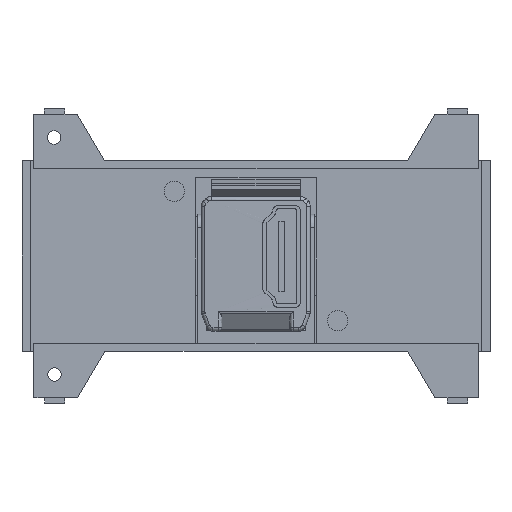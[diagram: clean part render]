
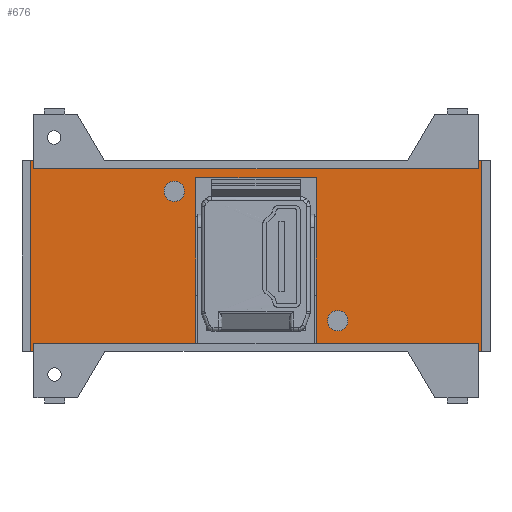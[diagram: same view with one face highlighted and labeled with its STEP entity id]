
A CAD part, top view. The second image highlights one B-rep face of the part: STEP entity #676.
In plain terms, the highlighted planar face has unit normal (0, 0, 1).
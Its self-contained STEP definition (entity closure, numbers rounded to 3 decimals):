
#249 = VERTEX_POINT('',#250);
#250 = CARTESIAN_POINT('',(13.,-9.5,1.2));
#256 = EDGE_CURVE('',#249,#249,#257,.T.);
#257 = CIRCLE('',#258,1.);
#258 = AXIS2_PLACEMENT_3D('',#259,#260,#261);
#259 = CARTESIAN_POINT('',(12.,-9.5,1.2));
#260 = DIRECTION('',(0.,0.,-1.));
#261 = DIRECTION('',(1.,0.,0.));
#274 = VERTEX_POINT('',#275);
#275 = CARTESIAN_POINT('',(-11.,9.5,1.2));
#281 = EDGE_CURVE('',#274,#274,#282,.T.);
#282 = CIRCLE('',#283,1.);
#283 = AXIS2_PLACEMENT_3D('',#284,#285,#286);
#284 = CARTESIAN_POINT('',(-12.,9.5,1.2));
#285 = DIRECTION('',(0.,0.,-1.));
#286 = DIRECTION('',(1.,0.,0.));
#299 = VERTEX_POINT('',#300);
#300 = CARTESIAN_POINT('',(8.83,11.5,1.2));
#306 = EDGE_CURVE('',#307,#299,#309,.T.);
#307 = VERTEX_POINT('',#308);
#308 = CARTESIAN_POINT('',(8.83,-12.8,1.2));
#309 = LINE('',#310,#311);
#310 = CARTESIAN_POINT('',(8.83,5.75,1.2));
#311 = VECTOR('',#312,1.);
#312 = DIRECTION('',(0.,1.,0.));
#330 = VERTEX_POINT('',#331);
#331 = CARTESIAN_POINT('',(-8.82,11.5,1.2));
#337 = EDGE_CURVE('',#299,#330,#338,.T.);
#338 = LINE('',#339,#340);
#339 = CARTESIAN_POINT('',(-4.41,11.5,1.2));
#340 = VECTOR('',#341,1.);
#341 = DIRECTION('',(-1.,0.,0.));
#354 = VERTEX_POINT('',#355);
#355 = CARTESIAN_POINT('',(-8.82,-12.8,1.2));
#361 = EDGE_CURVE('',#330,#354,#362,.T.);
#362 = LINE('',#363,#364);
#363 = CARTESIAN_POINT('',(-8.82,-6.4,1.2));
#364 = VECTOR('',#365,1.);
#365 = DIRECTION('',(0.,-1.,0.));
#426 = VERTEX_POINT('',#427);
#427 = CARTESIAN_POINT('',(-33.15,14.,1.2));
#433 = EDGE_CURVE('',#434,#426,#436,.T.);
#434 = VERTEX_POINT('',#435);
#435 = CARTESIAN_POINT('',(-32.65,14.,1.2));
#436 = LINE('',#437,#438);
#437 = CARTESIAN_POINT('',(34.35,14.,1.2));
#438 = VECTOR('',#439,1.);
#439 = DIRECTION('',(-1.,0.,0.));
#490 = VERTEX_POINT('',#491);
#491 = CARTESIAN_POINT('',(32.65,14.,1.2));
#497 = EDGE_CURVE('',#498,#490,#500,.T.);
#498 = VERTEX_POINT('',#499);
#499 = CARTESIAN_POINT('',(33.15,14.,1.2));
#500 = LINE('',#501,#502);
#501 = CARTESIAN_POINT('',(34.35,14.,1.2));
#502 = VECTOR('',#503,1.);
#503 = DIRECTION('',(-1.,0.,0.));
#546 = VERTEX_POINT('',#547);
#547 = CARTESIAN_POINT('',(33.15,-14.,1.2));
#553 = EDGE_CURVE('',#554,#546,#556,.T.);
#554 = VERTEX_POINT('',#555);
#555 = CARTESIAN_POINT('',(32.65,-14.,1.2));
#556 = LINE('',#557,#558);
#557 = CARTESIAN_POINT('',(-34.35,-14.,1.2));
#558 = VECTOR('',#559,1.);
#559 = DIRECTION('',(1.,0.,0.));
#626 = VERTEX_POINT('',#627);
#627 = CARTESIAN_POINT('',(-32.65,-14.,1.2));
#633 = EDGE_CURVE('',#634,#626,#636,.T.);
#634 = VERTEX_POINT('',#635);
#635 = CARTESIAN_POINT('',(-33.15,-14.,1.2));
#636 = LINE('',#637,#638);
#637 = CARTESIAN_POINT('',(-34.35,-14.,1.2));
#638 = VECTOR('',#639,1.);
#639 = DIRECTION('',(1.,0.,0.));
#676 = ADVANCED_FACE('',(#677,#748,#751),#754,.T.);
#677 = FACE_BOUND('',#678,.T.);
#678 = EDGE_LOOP('',(#679,#685,#686,#694,#700,#701,#702,#703,#711,#717,
    #718,#724,#725,#733,#741,#747));
#679 = ORIENTED_EDGE('',*,*,#680,.F.);
#680 = EDGE_CURVE('',#634,#426,#681,.T.);
#681 = LINE('',#682,#683);
#682 = CARTESIAN_POINT('',(-33.15,-14.,1.2));
#683 = VECTOR('',#684,1.);
#684 = DIRECTION('',(0.,1.,0.));
#685 = ORIENTED_EDGE('',*,*,#633,.T.);
#686 = ORIENTED_EDGE('',*,*,#687,.F.);
#687 = EDGE_CURVE('',#688,#626,#690,.T.);
#688 = VERTEX_POINT('',#689);
#689 = CARTESIAN_POINT('',(-32.65,-12.8,1.2));
#690 = LINE('',#691,#692);
#691 = CARTESIAN_POINT('',(-32.65,-12.8,1.2));
#692 = VECTOR('',#693,1.);
#693 = DIRECTION('',(0.,-1.,0.));
#694 = ORIENTED_EDGE('',*,*,#695,.F.);
#695 = EDGE_CURVE('',#354,#688,#696,.T.);
#696 = LINE('',#697,#698);
#697 = CARTESIAN_POINT('',(32.65,-12.8,1.2));
#698 = VECTOR('',#699,1.);
#699 = DIRECTION('',(-1.,0.,0.));
#700 = ORIENTED_EDGE('',*,*,#361,.F.);
#701 = ORIENTED_EDGE('',*,*,#337,.F.);
#702 = ORIENTED_EDGE('',*,*,#306,.F.);
#703 = ORIENTED_EDGE('',*,*,#704,.F.);
#704 = EDGE_CURVE('',#705,#307,#707,.T.);
#705 = VERTEX_POINT('',#706);
#706 = CARTESIAN_POINT('',(32.65,-12.8,1.2));
#707 = LINE('',#708,#709);
#708 = CARTESIAN_POINT('',(32.65,-12.8,1.2));
#709 = VECTOR('',#710,1.);
#710 = DIRECTION('',(-1.,0.,0.));
#711 = ORIENTED_EDGE('',*,*,#712,.F.);
#712 = EDGE_CURVE('',#554,#705,#713,.T.);
#713 = LINE('',#714,#715);
#714 = CARTESIAN_POINT('',(32.65,-14.,1.2));
#715 = VECTOR('',#716,1.);
#716 = DIRECTION('',(0.,1.,0.));
#717 = ORIENTED_EDGE('',*,*,#553,.T.);
#718 = ORIENTED_EDGE('',*,*,#719,.F.);
#719 = EDGE_CURVE('',#498,#546,#720,.T.);
#720 = LINE('',#721,#722);
#721 = CARTESIAN_POINT('',(33.15,14.,1.2));
#722 = VECTOR('',#723,1.);
#723 = DIRECTION('',(0.,-1.,0.));
#724 = ORIENTED_EDGE('',*,*,#497,.T.);
#725 = ORIENTED_EDGE('',*,*,#726,.F.);
#726 = EDGE_CURVE('',#727,#490,#729,.T.);
#727 = VERTEX_POINT('',#728);
#728 = CARTESIAN_POINT('',(32.65,12.8,1.2));
#729 = LINE('',#730,#731);
#730 = CARTESIAN_POINT('',(32.65,12.8,1.2));
#731 = VECTOR('',#732,1.);
#732 = DIRECTION('',(0.,1.,0.));
#733 = ORIENTED_EDGE('',*,*,#734,.F.);
#734 = EDGE_CURVE('',#735,#727,#737,.T.);
#735 = VERTEX_POINT('',#736);
#736 = CARTESIAN_POINT('',(-32.65,12.8,1.2));
#737 = LINE('',#738,#739);
#738 = CARTESIAN_POINT('',(-32.65,12.8,1.2));
#739 = VECTOR('',#740,1.);
#740 = DIRECTION('',(1.,0.,0.));
#741 = ORIENTED_EDGE('',*,*,#742,.F.);
#742 = EDGE_CURVE('',#434,#735,#743,.T.);
#743 = LINE('',#744,#745);
#744 = CARTESIAN_POINT('',(-32.65,14.,1.2));
#745 = VECTOR('',#746,1.);
#746 = DIRECTION('',(0.,-1.,0.));
#747 = ORIENTED_EDGE('',*,*,#433,.T.);
#748 = FACE_BOUND('',#749,.T.);
#749 = EDGE_LOOP('',(#750));
#750 = ORIENTED_EDGE('',*,*,#256,.T.);
#751 = FACE_BOUND('',#752,.T.);
#752 = EDGE_LOOP('',(#753));
#753 = ORIENTED_EDGE('',*,*,#281,.T.);
#754 = PLANE('',#755);
#755 = AXIS2_PLACEMENT_3D('',#756,#757,#758);
#756 = CARTESIAN_POINT('',(0.,0.,1.2));
#757 = DIRECTION('',(0.,0.,1.));
#758 = DIRECTION('',(1.,0.,-0.));
